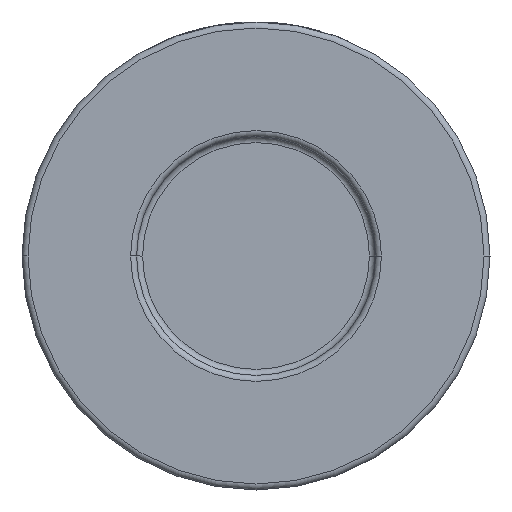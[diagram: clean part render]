
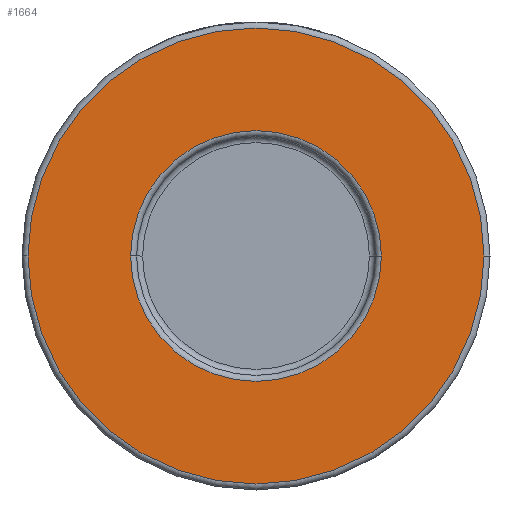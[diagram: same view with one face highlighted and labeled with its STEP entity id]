
A CAD part, front view. The second image highlights one B-rep face of the part: STEP entity #1664.
In plain terms, the highlighted planar face has unit normal (0, -1, 0).
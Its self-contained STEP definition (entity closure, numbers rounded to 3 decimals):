
#228 = AXIS2_PLACEMENT_3D ( 'NONE', #2923, #884, #1204 ) ;
#273 = AXIS2_PLACEMENT_3D ( 'NONE', #2021, #363, #1725 ) ;
#329 = FACE_OUTER_BOUND ( 'NONE', #1954, .T. ) ;
#351 = CARTESIAN_POINT ( 'NONE',  ( 38., -19., 0. ) ) ;
#363 = DIRECTION ( 'NONE',  ( 0., -1., 0. ) ) ;
#480 = EDGE_CURVE ( 'NONE', #948, #2606, #2612, .T. ) ;
#884 = DIRECTION ( 'NONE',  ( 0., -1., 0. ) ) ;
#914 = CIRCLE ( 'NONE', #228, 38. ) ;
#948 = VERTEX_POINT ( 'NONE', #4465 ) ;
#1004 = VERTEX_POINT ( 'NONE', #351 ) ;
#1080 = EDGE_CURVE ( 'NONE', #2606, #948, #2761, .T. ) ;
#1152 = AXIS2_PLACEMENT_3D ( 'NONE', #3502, #3204, #3553 ) ;
#1204 = DIRECTION ( 'NONE',  ( 1., 0., 0. ) ) ;
#1231 = ORIENTED_EDGE ( 'NONE', *, *, #1080, .T. ) ;
#1269 = ORIENTED_EDGE ( 'NONE', *, *, #3708, .T. ) ;
#1394 = VERTEX_POINT ( 'NONE', #1901 ) ;
#1664 = ADVANCED_FACE ( 'NONE', ( #2511, #329 ), #3931, .T. ) ;
#1725 = DIRECTION ( 'NONE',  ( 1., 0., 0. ) ) ;
#1793 = EDGE_CURVE ( 'NONE', #1394, #1004, #914, .T. ) ;
#1831 = DIRECTION ( 'NONE',  ( 1., 0., 0. ) ) ;
#1901 = CARTESIAN_POINT ( 'NONE',  ( -38., -19., 0. ) ) ;
#1936 = AXIS2_PLACEMENT_3D ( 'NONE', #3947, #3060, #1831 ) ;
#1954 = EDGE_LOOP ( 'NONE', ( #1269, #2481 ) ) ;
#2021 = CARTESIAN_POINT ( 'NONE',  ( 0., -19., 0. ) ) ;
#2346 = DIRECTION ( 'NONE',  ( 0., 1., 0. ) ) ;
#2481 = ORIENTED_EDGE ( 'NONE', *, *, #1793, .T. ) ;
#2511 = FACE_BOUND ( 'NONE', #3554, .T. ) ;
#2606 = VERTEX_POINT ( 'NONE', #3100 ) ;
#2612 = CIRCLE ( 'NONE', #4537, 20.9 ) ;
#2688 = CARTESIAN_POINT ( 'NONE',  ( 0., -19., 0. ) ) ;
#2761 = CIRCLE ( 'NONE', #1936, 20.9 ) ;
#2923 = CARTESIAN_POINT ( 'NONE',  ( 0., -19., 0. ) ) ;
#3060 = DIRECTION ( 'NONE',  ( 0., 1., 0. ) ) ;
#3063 = DIRECTION ( 'NONE',  ( 1., 0., 0. ) ) ;
#3100 = CARTESIAN_POINT ( 'NONE',  ( -20.9, -19., 0. ) ) ;
#3167 = CIRCLE ( 'NONE', #273, 38. ) ;
#3204 = DIRECTION ( 'NONE',  ( 0., -1., 0. ) ) ;
#3502 = CARTESIAN_POINT ( 'NONE',  ( 39., -19., 0. ) ) ;
#3553 = DIRECTION ( 'NONE',  ( 1., 0., 0. ) ) ;
#3554 = EDGE_LOOP ( 'NONE', ( #3729, #1231 ) ) ;
#3708 = EDGE_CURVE ( 'NONE', #1004, #1394, #3167, .T. ) ;
#3729 = ORIENTED_EDGE ( 'NONE', *, *, #480, .T. ) ;
#3931 = PLANE ( 'NONE',  #1152 ) ;
#3947 = CARTESIAN_POINT ( 'NONE',  ( 0., -19., 0. ) ) ;
#4465 = CARTESIAN_POINT ( 'NONE',  ( 20.9, -19., 0. ) ) ;
#4537 = AXIS2_PLACEMENT_3D ( 'NONE', #2688, #2346, #3063 ) ;
